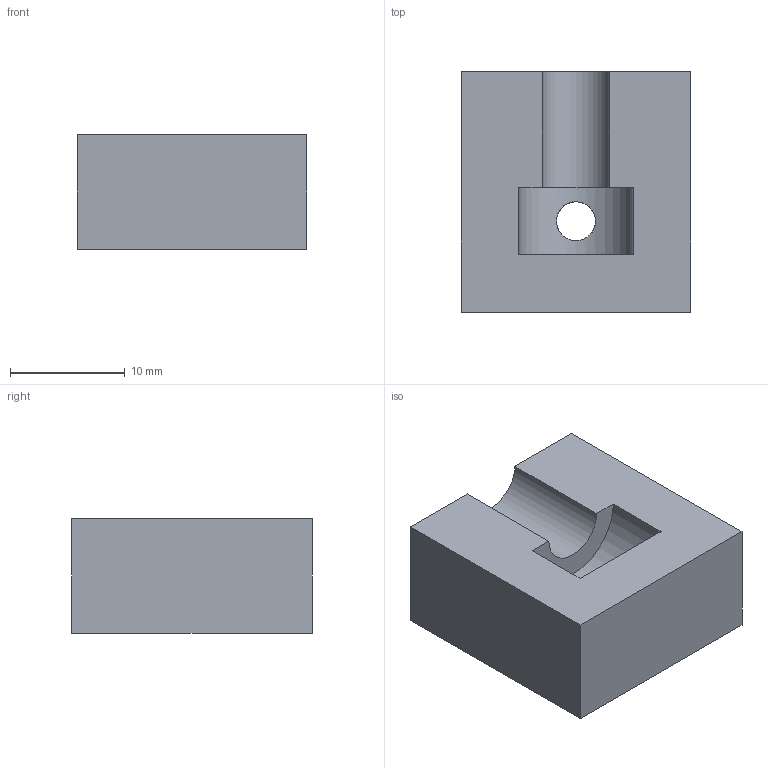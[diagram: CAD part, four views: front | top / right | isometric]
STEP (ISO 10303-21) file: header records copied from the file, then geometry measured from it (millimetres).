
FILE_DESCRIPTION( ( '' ), ' ' );
FILE_NAME( '/vol/tmp/translate-6518569558852773029/5dc6e2eb943337127562860e.step', '2019-11-09T16:01:47', ( '' ), ( '' ), ' ', ' ', ' ' );
FILE_SCHEMA( ( 'AUTOMOTIVE_DESIGN { 1 0 10303 214 1 1 1 1 }' ) );
Length unit declared in the file: metre
Products named in the file (1): Part 1
Bounding box: 20 x 21 x 10 mm (x, y, z)
Volume: 3784.2 mm3; surface area: 1815.6 mm2
Topology: 1 solids, 1 shells, 11 faces, 28 edges, 19 vertices
Faces by surface type: plane 8, cylinder 3
Full cylindrical faces by diameter (mm): 3.4 x1
Entity records: 482 total; most frequent: CARTESIAN_POINT 111, DIRECTION 54, ORIENTED_EDGE 52, EDGE_CURVE 26, LINE 20, VECTOR 20, VERTEX_POINT 18, AXIS2_PLACEMENT_3D 17
